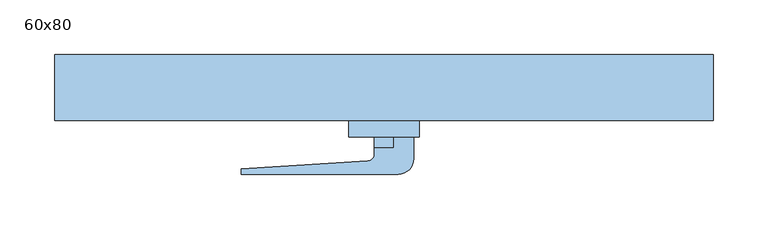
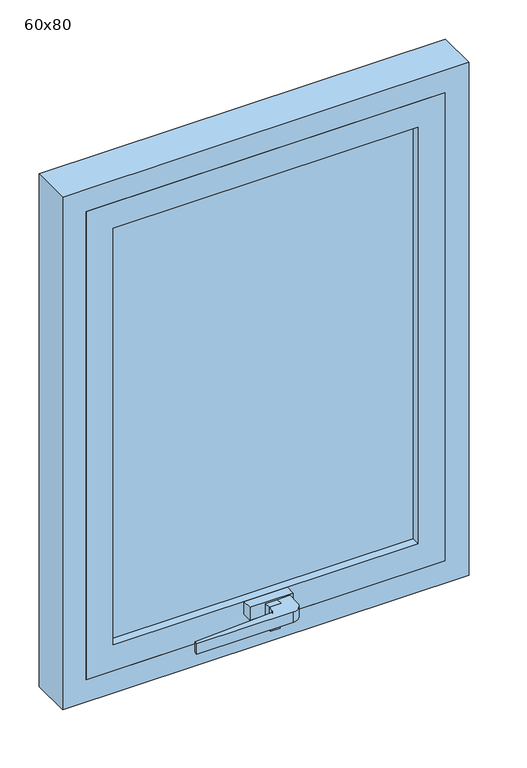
"""IFC4 building model written with IfcOpenShell, lengths in millimetres: window geometry, Janela Maxim-ar : 60x80."""

from ifc_helpers import new_model, si_unit, point, frame, frame_2d, origin, place, context, project, spatial, polyline, circle_curve, trimmed, segment, composite_curve, outline, extrude, source, transform, mapped, element, save


def window_60x80_d31b0025(model_context):
    return source(origin(), model_context, "Body", "SweptSolid", [
        extrude(outline(composite_curve([segment(polyline([(9.0, -95.0), (9.0, -85.0), (27.0, -85.0), (27.0, -105.0)]), True, "CONTINUOUS"), segment(trimmed(circle_curve(frame_2d((13.0, -105.0)), 14.0), [point((27.0, -105.0))], [point((13.0, -119.0))], False, "CARTESIAN"), True, "CONTINUOUS"), segment(polyline([(13.0, -119.0), (-130.0, -119.0), (-130.0, -114.0), (-14.6705919, -106.9888756)]), True, "CONTINUOUS"), segment(trimmed(circle_curve(frame_2d((-15.0369126, -100.9630874)), 6.0369126), [point((-14.6705919, -106.9888756))], [point((-9.0, -100.9630874))], True, "CARTESIAN"), True, "CONTINUOUS"), segment(polyline([(-9.0, -100.9630874), (-9.0, -95.0), (9.0, -95.0)]), True, "CONTINUOUS")], self_intersect=False)), frame((0.0, 0.0, 707.0), z_axis=(0.0, 0.0, 1.0), x_axis=(1.0, 0.0, 0.0)), (0.0, 0.0, 1.0), 16.0),
        extrude(outline(polyline([(723.0, 9.0), (723.0, -9.0), (703.0135985, -9.0), (685.0, -6.9842809), (685.0, 7.0348924), (703.0135985, 9.0), (723.0, 9.0)])), frame((0.0, -95.0, 0.0), z_axis=(0.0, 1.0, 0.0), x_axis=(0.0, 0.0, 1.0)), (0.0, 0.0, 1.0), 10.0),
        extrude(outline(polyline([(32.0, -85.0), (-32.0, -85.0), (-32.0, -70.0), (32.0, -70.0), (32.0, -85.0)])), frame((0.0, 0.0, 705.0), z_axis=(0.0, 0.0, 1.0), x_axis=(1.0, 0.0, 0.0)), (0.0, 0.0, 1.0), 20.0),
        extrude(outline(polyline([(225.0, -43.0), (225.0, -57.0), (-225.0, -57.0), (-225.0, -43.0), (225.0, -43.0)])), frame((0.0, 0.0, 725.0), z_axis=(0.0, 0.0, 1.0), x_axis=(1.0, 0.0, 0.0)), (0.0, 0.0, 1.0), 650.0),
        extrude(outline(polyline([(685.0, -265.0), (685.0, 265.0), (1415.0, 265.0), (1415.0, -265.0), (685.0, -265.0)]), holes=[polyline([(1375.0, -225.0), (1375.0, 225.0), (725.0, 225.0), (725.0, -225.0), (1375.0, -225.0)])]), frame((0.0, -70.0, 0.0), z_axis=(0.0, 1.0, 0.0), x_axis=(0.0, 0.0, 1.0)), (0.0, 0.0, 1.0), 40.0),
        extrude(outline(polyline([(650.0, -300.0), (650.0, 300.0), (1450.0, 300.0), (1450.0, -300.0), (650.0, -300.0)]), holes=[polyline([(1415.0, -265.0), (1415.0, 265.0), (685.0, 265.0), (685.0, -265.0), (1415.0, -265.0)])]), frame((0.0, -70.0, 0.0), z_axis=(0.0, 1.0, 0.0), x_axis=(0.0, 0.0, 1.0)), (0.0, 0.0, 1.0), 60.0),
    ])


if __name__ == "__main__":
    model = new_model("IFC4")
    model_context = context("Model", 3, world=origin())
    ifc_project = project(units=[si_unit("LENGTHUNIT", "METRE", prefix="MILLI")], contexts=[model_context])
    site = spatial("IfcSite", under=ifc_project)
    building = spatial("IfcBuilding", under=site)
    placement = place(None, origin())
    window_60x80_shape = window_60x80_d31b0025(model_context)
    element("IfcWindow", 1, ObjectType="Janela Maxim-ar : 60x80", at=placement, inside=building, context=model_context, shape_type="MappedRepresentation", body=[
        mapped(window_60x80_shape, transform((0.0, 0.0, 0.0), x_axis=(1.0, 0.0, 0.0), y_axis=(0.0, 1.0, 0.0), z_axis=(0.0, 0.0, 1.0))),
    ])
    save(model, "model.ifc")
